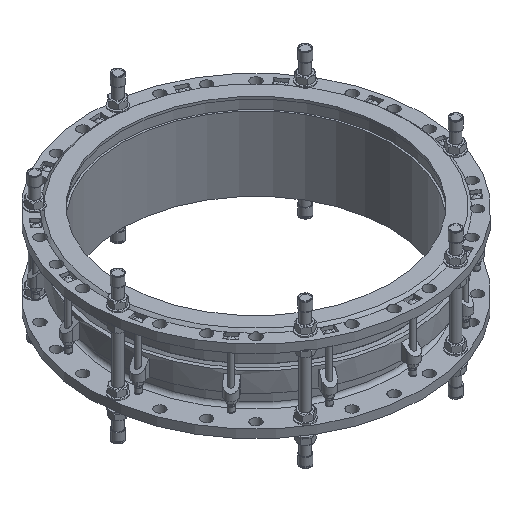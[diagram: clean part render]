
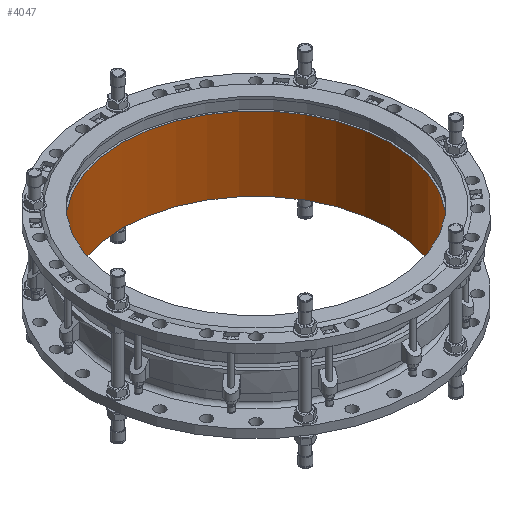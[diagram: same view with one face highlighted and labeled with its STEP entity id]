
A CAD part, isometric view. The second image highlights one B-rep face of the part: STEP entity #4047.
In plain terms, the highlighted cylindrical face has radius 450 mm (diameter 900 mm), a full revolution.
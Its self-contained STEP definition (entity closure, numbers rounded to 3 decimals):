
#4047=ADVANCED_FACE('',(#4892,#4894),#4896,.F.);
#4892=FACE_OUTER_BOUND('',#4893,.T.);
#4893=EDGE_LOOP('',(#8656));
#4894=FACE_OUTER_BOUND('',#4895,.T.);
#4895=EDGE_LOOP('',(#8657));
#4896=CYLINDRICAL_SURFACE('',#4897,450.);
#4897=AXIS2_PLACEMENT_3D('',#4898,#4899,#4900);
#4898=CARTESIAN_POINT('',(0.,0.,0.));
#4899=DIRECTION('',(0.,0.,1.));
#4900=DIRECTION('',(-1.,0.,0.));
#8656=ORIENTED_EDGE('',*,*,#11311,.F.);
#8657=ORIENTED_EDGE('',*,*,#11312,.F.);
#11311=EDGE_CURVE('',#12554,#12554,#12555,.T.);
#11312=EDGE_CURVE('',#12556,#12556,#12557,.T.);
#12554=VERTEX_POINT('',#14693);
#12555=CIRCLE('',#14694,450.);
#12556=VERTEX_POINT('',#14698);
#12557=CIRCLE('',#14699,450.);
#14693=CARTESIAN_POINT('',(-450.,0.,248.));
#14694=AXIS2_PLACEMENT_3D('',#14695,#14696,#14697);
#14695=CARTESIAN_POINT('',(0.,0.,248.));
#14696=DIRECTION('',(0.,0.,-1.));
#14697=DIRECTION('',(-1.,0.,0.));
#14698=CARTESIAN_POINT('',(-450.,0.,0.));
#14699=AXIS2_PLACEMENT_3D('',#14700,#14701,#14702);
#14700=CARTESIAN_POINT('',(0.,0.,0.));
#14701=DIRECTION('',(0.,0.,1.));
#14702=DIRECTION('',(-1.,0.,0.));
